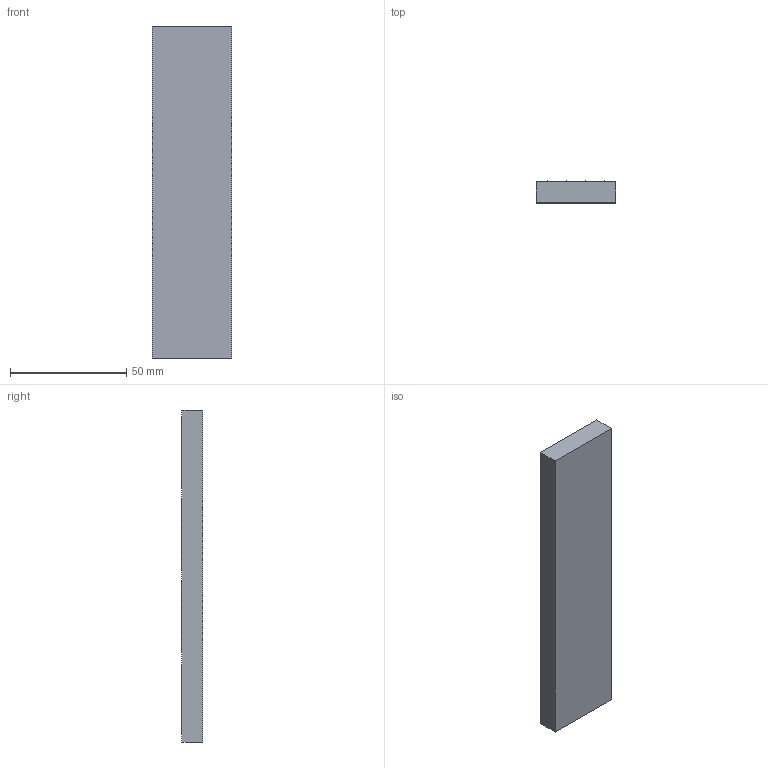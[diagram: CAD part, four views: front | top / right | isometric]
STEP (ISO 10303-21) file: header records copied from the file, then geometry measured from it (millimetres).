
FILE_DESCRIPTION( (''), '2;1');
FILE_NAME ('FR-150-3.5.stp','2024-12-17T17:02:14',(''),(''),'spGate 20.6.2 (****-****-****-****)','','');
FILE_SCHEMA (('AUTOMOTIVE_DESIGN'));
Length unit declared in the file: millimetre
Products named in the file (17): NewModel; TEMP_X_T-prt0; TEMP_X_T-prt1; TEMP_X_T-prt2; TEMP_X_T-prt3; TEMP_X_T-prt4; TEMP_X_T-prt5; TEMP_X_T-prt6; TEMP_X_T-prt7; TEMP_X_T-prt8; TEMP_X_T-prt9; TEMP_X_T-prt10; TEMP_X_T-prt11; TEMP_X_T-prt12; TEMP_X_T-prt13; TEMP_X_T-prt14; TEMP_X_T-prt15
Assembly tree (16 placements, depth 2):
  NewModel
    TEMP_X_T-prt0
    TEMP_X_T-prt1
    TEMP_X_T-prt2
    TEMP_X_T-prt3
    TEMP_X_T-prt4
    TEMP_X_T-prt5
    TEMP_X_T-prt6
    TEMP_X_T-prt7
    TEMP_X_T-prt8
    TEMP_X_T-prt9
    TEMP_X_T-prt10
    TEMP_X_T-prt11
    TEMP_X_T-prt12
    TEMP_X_T-prt13
    TEMP_X_T-prt14
    TEMP_X_T-prt15
Bounding box: 34.2 x 9.3 x 143 mm (x, y, z)
Surface area: 22862 mm2
Topology: 16 solids, 16 shells, 66 faces, 102 edges, 68 vertices
Faces by surface type: plane 36, cylinder 30
Entity records: 2982 total; most frequent: DIRECTION 332, CARTESIAN_POINT 300, ORIENTED_EDGE 204, COLOUR_RGB 184, PRESENTATION_STYLE_ASSIGNMENT 184, STYLED_ITEM 184, AXIS2_PLACEMENT_3D 160, EDGE_CURVE 102
